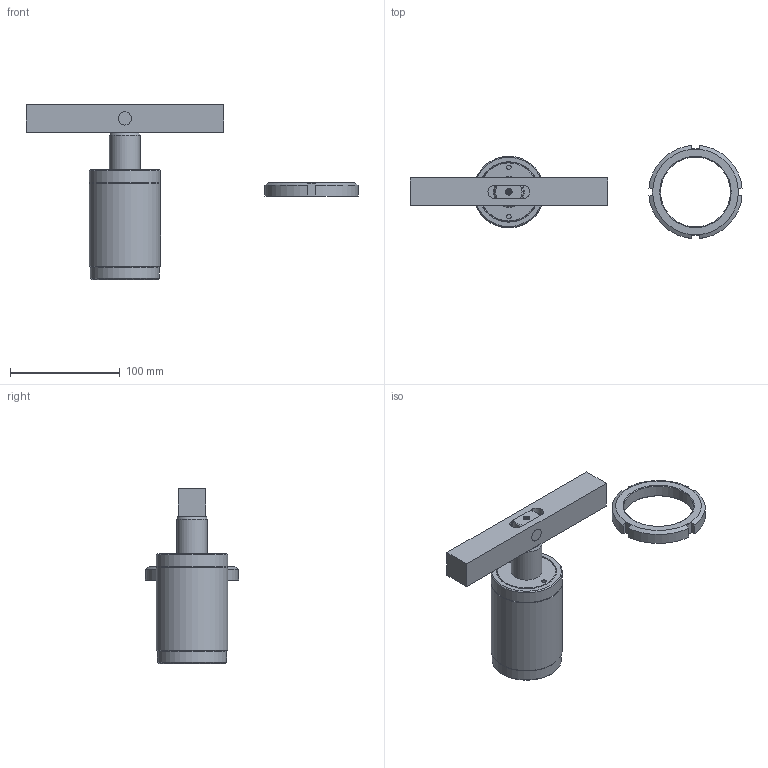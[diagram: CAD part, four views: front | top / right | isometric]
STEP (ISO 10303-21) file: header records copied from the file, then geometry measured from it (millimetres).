
FILE_DESCRIPTION(/* description */ ('Unknown'),/* implementation_level */ '2;1');
FILE_NAME(/* name */ 'HSC-TB50D-B',/* time_stamp */ '2022-08-26T04:09:04+08:00',/* author */ ('Unknown'),/* organization */ ('Unknown'),/* preprocessor_version */ 'ST-DEVELOPER v16.7',/* originating_system */ 'DEX',/* authorisation */ $);
FILE_SCHEMA (('AUTOMOTIVE_DESIGN {1 0 10303 214 3 1 1}'));
Length unit declared in the file: millimetre
Products named in the file (6): HSC-TB50D-B; HSC-5002-D-AXLE CENTRE; HSC-5002-D-FIXED PIN; HSC-50D-B; HSC-TB50-Nut; HSC-TB50D-CYLINDER
Assembly tree (5 placements, depth 2):
  HSC-TB50D-B
    HSC-5002-D-AXLE CENTRE
    HSC-5002-D-FIXED PIN
    HSC-50D-B
    HSC-TB50-Nut
    HSC-TB50D-CYLINDER
Bounding box: 302.36 x 84.71 x 159.4 mm (x, y, z)
Volume: 430803.9 mm3; surface area: 87147.7 mm2
Topology: 5 solids, 5 shells, 105 faces, 227 edges, 142 vertices
Faces by surface type: plane 48, cylinder 24, cone 23, bspline 6, torus 4
Full cylindrical faces by diameter (mm): 4.1 x2, 9.147 x2, 12 x4, 28 x2, 50 x2, 63 x1, 63.5 x1, 65 x2
Entity records: 3151 total; most frequent: CARTESIAN_POINT 601, DIRECTION 442, ORIENTED_EDGE 356, AXIS2_PLACEMENT_3D 187, EDGE_CURVE 178, EDGE_LOOP 160, FACE_BOUND 160, VERTEX_POINT 128
